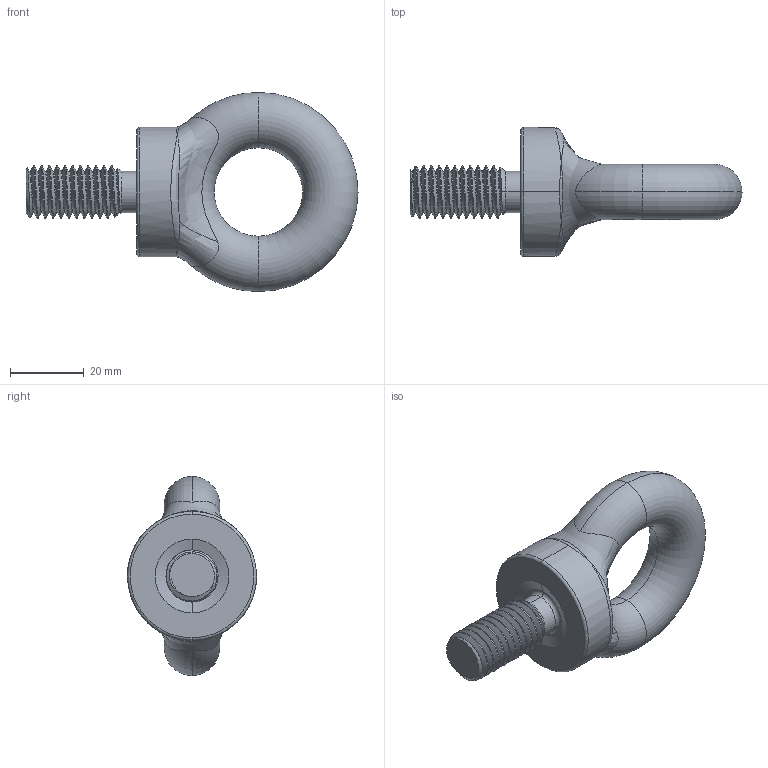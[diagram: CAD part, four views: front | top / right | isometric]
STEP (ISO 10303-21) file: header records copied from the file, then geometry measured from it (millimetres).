
FILE_DESCRIPTION (( 'STEP AP203' ), '1' );
FILE_NAME ('EBW562.STEP', '2014-03-04T00:52:28', ( '' ), ( '' ), 'SwSTEP 2.0', 'SolidWorks 2012', '' );
FILE_SCHEMA (( 'CONFIG_CONTROL_DESIGN' ));
Length unit declared in the file: millimetre
Products named in the file (1): EBW562
Bounding box: 90 x 35 x 54 mm (x, y, z)
Volume: 36285.8 mm3; surface area: 9729.7 mm2
Topology: 1 solids, 1 shells, 54 faces, 149 edges, 88 vertices
Faces by surface type: cylinder 26, torus 11, bspline 9, cone 6, plane 2
Entity records: 5763 total; most frequent: CARTESIAN_POINT 4564, ORIENTED_EDGE 282, DIRECTION 192, EDGE_CURVE 141, VERTEX_POINT 88, AXIS2_PLACEMENT_3D 81, EDGE_LOOP 55, ADVANCED_FACE 54
